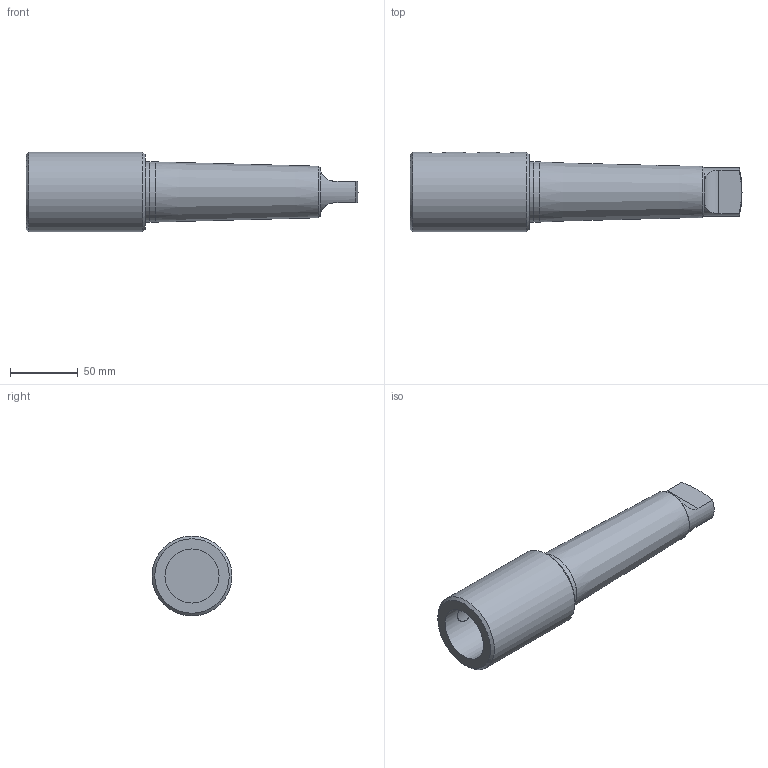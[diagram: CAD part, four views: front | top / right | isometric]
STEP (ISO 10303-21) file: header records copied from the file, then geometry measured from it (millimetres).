
FILE_DESCRIPTION(/* description */ (''),/* implementation_level */ '2;1');
FILE_NAME(/* name */ 'MTA5-SLA40.stp',/* time_stamp */ '2025-08-20T09:27:28+03:00',/* author */ ('User'),/* organization */ (''),/* preprocessor_version */ 'ST-DEVELOPER v19.2',/* originating_system */ 'Autodesk Inventor 2024',/* authorisation */ '');
FILE_SCHEMA (('AUTOMOTIVE_DESIGN { 1 0 10303 214 3 1 1 }'));
Length unit declared in the file: millimetre
Products named in the file (1): Деталь1
Bounding box: 245 x 59 x 59 mm (x, y, z)
Volume: 330475.7 mm3; surface area: 52788.1 mm2
Topology: 4 solids, 4 shells, 58 faces, 131 edges, 87 vertices
Faces by surface type: plane 31, cylinder 17, cone 6, bspline 4
Full cylindrical faces by diameter (mm): 14 x3, 14.2 x3, 40 x1, 44.3 x1, 44.379 x1, 59 x1
Entity records: 2501 total; most frequent: CARTESIAN_POINT 1108, ORIENTED_EDGE 260, DIRECTION 235, EDGE_CURVE 130, VERTEX_POINT 87, LINE 79, VECTOR 79, AXIS2_PLACEMENT_3D 78
